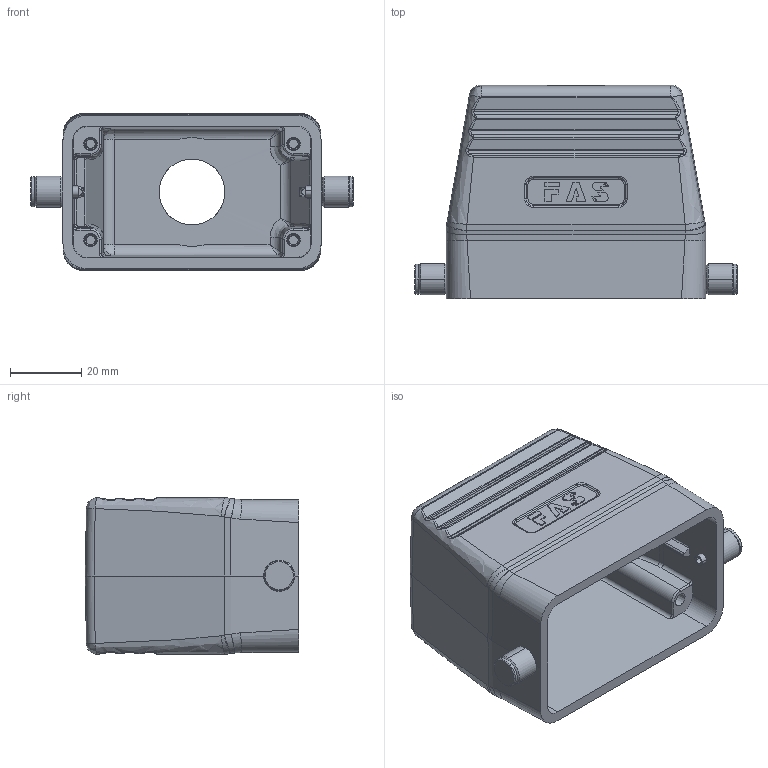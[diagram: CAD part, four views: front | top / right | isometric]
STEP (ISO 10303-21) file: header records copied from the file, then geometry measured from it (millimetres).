
FILE_DESCRIPTION (( 'STEP AP203' ), '1' );
FILE_NAME ('H10B-TG-RO-M20&25.STEP', '2020-11-21T05:01:42', ( '' ), ( '' ), 'SwSTEP 2.0', 'SolidWorks 2016', '' );
FILE_SCHEMA (( 'CONFIG_CONTROL_DESIGN' ));
Length unit declared in the file: millimetre
Products named in the file (5): asm0001; h10b_low_hoods; prt0004; prt0001; H10B-TG-RO-M20&25
Assembly tree (6 placements, depth 3):
  H10B-TG-RO-M20&25
    asm0001
      prt0001  x2
      prt0004  x2
    h10b_low_hoods
Bounding box: 90.57 x 60 x 44 mm (x, y, z)
Volume: 61551.7 mm3; surface area: 29709.5 mm2
Topology: 5 solids, 5 shells, 547 faces, 1293 edges, 786 vertices
Faces by surface type: plane 178, cylinder 169, bspline 150, cone 50
Entity records: 23969 total; most frequent: CARTESIAN_POINT 12829, ORIENTED_EDGE 2458, DIRECTION 1807, EDGE_CURVE 1229, VERTEX_POINT 747, AXIS2_PLACEMENT_3D 626, LINE 555, VECTOR 555
